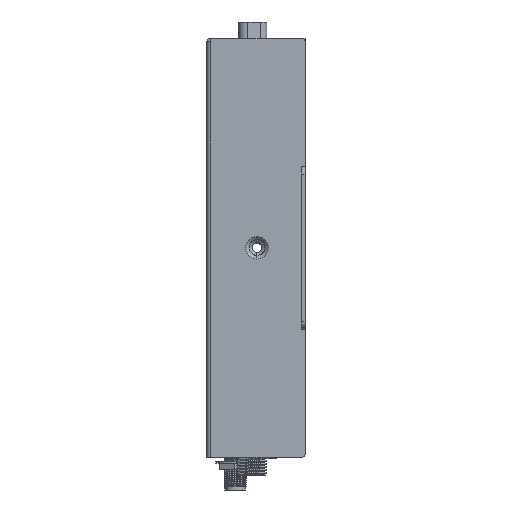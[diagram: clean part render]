
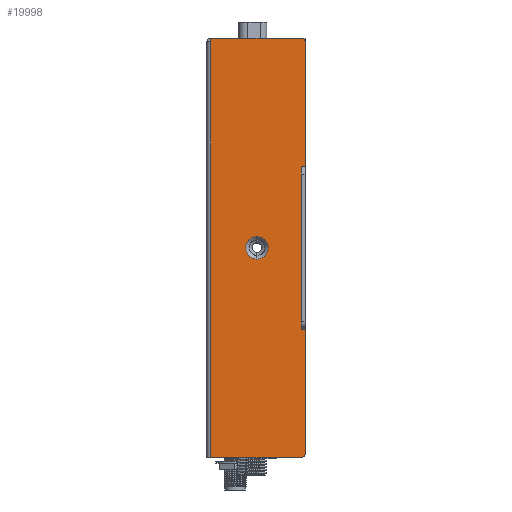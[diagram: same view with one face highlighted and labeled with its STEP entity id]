
A CAD part, left-side view. The second image highlights one B-rep face of the part: STEP entity #19998.
In plain terms, the highlighted planar face has unit normal (-1, 0, 0).
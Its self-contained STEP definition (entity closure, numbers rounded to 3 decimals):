
#9483=DIRECTION('',(0.,1.,0.));
#9484=VECTOR('',#9483,24.);
#9485=CARTESIAN_POINT('',(-38.5,1.,55.5));
#9486=LINE('',#9485,#9484);
#9487=CARTESIAN_POINT('',(-38.5,1.,54.5));
#9488=DIRECTION('',(-1.,0.,0.));
#9489=DIRECTION('',(0.,-1.,0.));
#9490=AXIS2_PLACEMENT_3D('',#9487,#9488,#9489);
#9492=DIRECTION('',(0.,0.,1.));
#9493=VECTOR('',#9492,33.);
#9494=CARTESIAN_POINT('',(-38.5,0.,21.5));
#9495=LINE('',#9494,#9493);
#9496=DIRECTION('',(0.,-1.,0.));
#9497=VECTOR('',#9496,1.);
#9498=CARTESIAN_POINT('',(-38.5,1.,21.5));
#9499=LINE('',#9498,#9497);
#9500=DIRECTION('',(0.,1.,0.));
#9501=VECTOR('',#9500,1.);
#9502=CARTESIAN_POINT('',(-38.5,0.,-21.5));
#9503=LINE('',#9502,#9501);
#9504=DIRECTION('',(0.,0.,1.));
#9505=VECTOR('',#9504,33.);
#9506=CARTESIAN_POINT('',(-38.5,0.,-54.5));
#9507=LINE('',#9506,#9505);
#9508=CARTESIAN_POINT('',(-38.5,1.,-54.5));
#9509=DIRECTION('',(-1.,0.,0.));
#9510=DIRECTION('',(0.,0.,-1.));
#9511=AXIS2_PLACEMENT_3D('',#9508,#9509,#9510);
#9513=DIRECTION('',(0.,-1.,0.));
#9514=VECTOR('',#9513,24.);
#9515=CARTESIAN_POINT('',(-38.5,25.,-55.5));
#9516=LINE('',#9515,#9514);
#9517=DIRECTION('',(0.,0.,-1.));
#9518=VECTOR('',#9517,1.);
#9519=CARTESIAN_POINT('',(-38.5,25.,55.5));
#9520=LINE('',#9519,#9518);
#9521=CARTESIAN_POINT('',(-38.5,12.75,0.));
#9522=DIRECTION('',(1.,0.,0.));
#9523=DIRECTION('',(0.,0.,1.));
#9524=AXIS2_PLACEMENT_3D('',#9521,#9522,#9523);
#9526=CARTESIAN_POINT('',(-38.5,12.75,0.));
#9527=DIRECTION('',(1.,0.,0.));
#9528=DIRECTION('',(0.,0.,-1.));
#9529=AXIS2_PLACEMENT_3D('',#9526,#9527,#9528);
#9544=DIRECTION('',(0.,0.,-1.));
#9545=VECTOR('',#9544,43.);
#9546=CARTESIAN_POINT('',(-38.5,1.,21.5));
#9547=LINE('',#9546,#9545);
#9793=DIRECTION('',(0.,0.,1.));
#9794=VECTOR('',#9793,110.);
#9795=CARTESIAN_POINT('',(-38.5,25.,-55.5));
#9796=LINE('',#9795,#9794);
#17362=CARTESIAN_POINT('',(-38.5,1.,-21.5));
#17364=VERTEX_POINT('',#17362);
#17366=CARTESIAN_POINT('',(-38.5,1.,55.5));
#17367=CARTESIAN_POINT('',(-38.5,25.,55.5));
#17368=VERTEX_POINT('',#17366);
#17369=VERTEX_POINT('',#17367);
#17376=CARTESIAN_POINT('',(-38.5,1.,21.5));
#17377=VERTEX_POINT('',#17376);
#17378=CARTESIAN_POINT('',(-38.5,12.75,-3.));
#17380=VERTEX_POINT('',#17378);
#17382=CARTESIAN_POINT('',(-38.5,12.75,3.));
#17383=VERTEX_POINT('',#17382);
#17384=CARTESIAN_POINT('',(-38.5,25.,54.5));
#17385=VERTEX_POINT('',#17384);
#17386=CARTESIAN_POINT('',(-38.5,0.,54.5));
#17387=VERTEX_POINT('',#17386);
#17398=CARTESIAN_POINT('',(-38.5,25.,-55.5));
#17399=VERTEX_POINT('',#17398);
#17400=CARTESIAN_POINT('',(-38.5,0.,21.5));
#17401=VERTEX_POINT('',#17400);
#17414=CARTESIAN_POINT('',(-38.5,0.,-21.5));
#17415=VERTEX_POINT('',#17414);
#17420=CARTESIAN_POINT('',(-38.5,1.,-55.5));
#17421=VERTEX_POINT('',#17420);
#17442=CARTESIAN_POINT('',(-38.5,0.,-54.5));
#17443=VERTEX_POINT('',#17442);
#19968=CARTESIAN_POINT('',(-38.5,25.,54.5));
#19969=DIRECTION('',(1.,0.,0.));
#19970=DIRECTION('',(0.,0.,1.));
#19971=AXIS2_PLACEMENT_3D('',#19968,#19969,#19970);
#19972=PLANE('',#19971);
#19973=ORIENTED_EDGE('',*,*,#19934,.F.);
#19974=ORIENTED_EDGE('',*,*,#19947,.F.);
#19975=ORIENTED_EDGE('',*,*,#19959,.F.);
#19977=ORIENTED_EDGE('',*,*,#19976,.F.);
#19979=ORIENTED_EDGE('',*,*,#19978,.T.);
#19981=ORIENTED_EDGE('',*,*,#19980,.F.);
#19983=ORIENTED_EDGE('',*,*,#19982,.F.);
#19985=ORIENTED_EDGE('',*,*,#19984,.F.);
#19986=ORIENTED_EDGE('',*,*,#19870,.F.);
#19988=ORIENTED_EDGE('',*,*,#19987,.T.);
#19989=ORIENTED_EDGE('',*,*,#19918,.F.);
#19990=EDGE_LOOP('',(#19973,#19974,#19975,#19977,#19979,#19981,#19983,#19985,
#19986,#19988,#19989));
#19991=FACE_OUTER_BOUND('',#19990,.F.);
#19993=ORIENTED_EDGE('',*,*,#19992,.F.);
#19995=ORIENTED_EDGE('',*,*,#19994,.F.);
#19996=EDGE_LOOP('',(#19993,#19995));
#19997=FACE_BOUND('',#19996,.F.);
#19998=ADVANCED_FACE('',(#19991,#19997),#19972,.F.);
#9491=CIRCLE('',#9490,1.);
#9512=CIRCLE('',#9511,1.);
#9525=CIRCLE('',#9524,3.);
#9530=CIRCLE('',#9529,3.);
#19870=EDGE_CURVE('',#17399,#17421,#9516,.T.);
#19918=EDGE_CURVE('',#17369,#17385,#9520,.T.);
#19934=EDGE_CURVE('',#17368,#17369,#9486,.T.);
#19947=EDGE_CURVE('',#17387,#17368,#9491,.T.);
#19959=EDGE_CURVE('',#17401,#17387,#9495,.T.);
#19976=EDGE_CURVE('',#17377,#17401,#9499,.T.);
#19978=EDGE_CURVE('',#17377,#17364,#9547,.T.);
#19980=EDGE_CURVE('',#17415,#17364,#9503,.T.);
#19982=EDGE_CURVE('',#17443,#17415,#9507,.T.);
#19984=EDGE_CURVE('',#17421,#17443,#9512,.T.);
#19987=EDGE_CURVE('',#17399,#17385,#9796,.T.);
#19992=EDGE_CURVE('',#17383,#17380,#9525,.T.);
#19994=EDGE_CURVE('',#17380,#17383,#9530,.T.);
